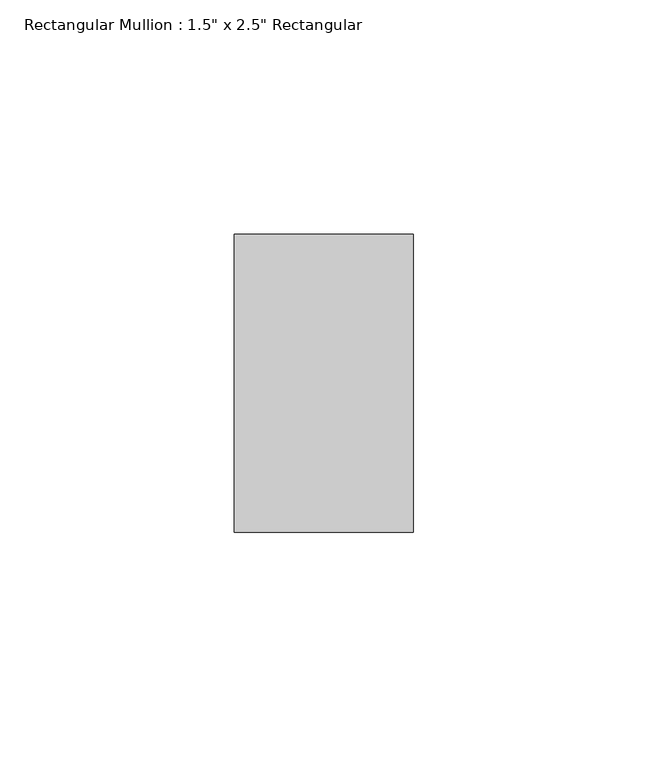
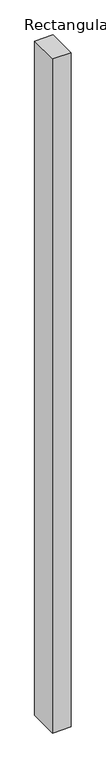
"""IFC4 building model written with IfcOpenShell, lengths in millimetres: member geometry."""

from ifc_helpers import new_model, si_unit, frame, origin, place, context, project, spatial, polyline, outline, extrude, source, transform, mapped, element, save


def member_4c538f64(model_context):
    return source(origin(), model_context, "Body", "SweptSolid", [
        extrude(outline(polyline([(0.0, 31.75), (0.0, -31.75), (-38.1, -31.75), (-38.1, 31.75), (0.0, 31.75)])), frame((0.0, 0.0, -1466.8500003), z_axis=(0.0, 0.0, 1.0), x_axis=(1.0, 0.0, 0.0)), (0.0, 0.0, 1.0), 1466.8500003),
    ])


if __name__ == "__main__":
    model = new_model("IFC4")
    model_context = context("Model", 3, world=origin())
    ifc_project = project(units=[si_unit("LENGTHUNIT", "METRE", prefix="MILLI")], contexts=[model_context])
    site = spatial("IfcSite", under=ifc_project)
    building = spatial("IfcBuilding", under=site)
    placement = place(None, origin())
    member_shape = member_4c538f64(model_context)
    element("IfcMember", 1, ObjectType="Rectangular Mullion : 1.5\" x 2.5\" Rectangular", at=placement, inside=building, context=model_context, shape_type="MappedRepresentation", body=[
        mapped(member_shape, transform((0.0, 0.0, 0.0), x_axis=(1.0, 0.0, 0.0), y_axis=(0.0, 1.0, 0.0), z_axis=(0.0, 0.0, 1.0))),
    ])
    save(model, "model.ifc")
